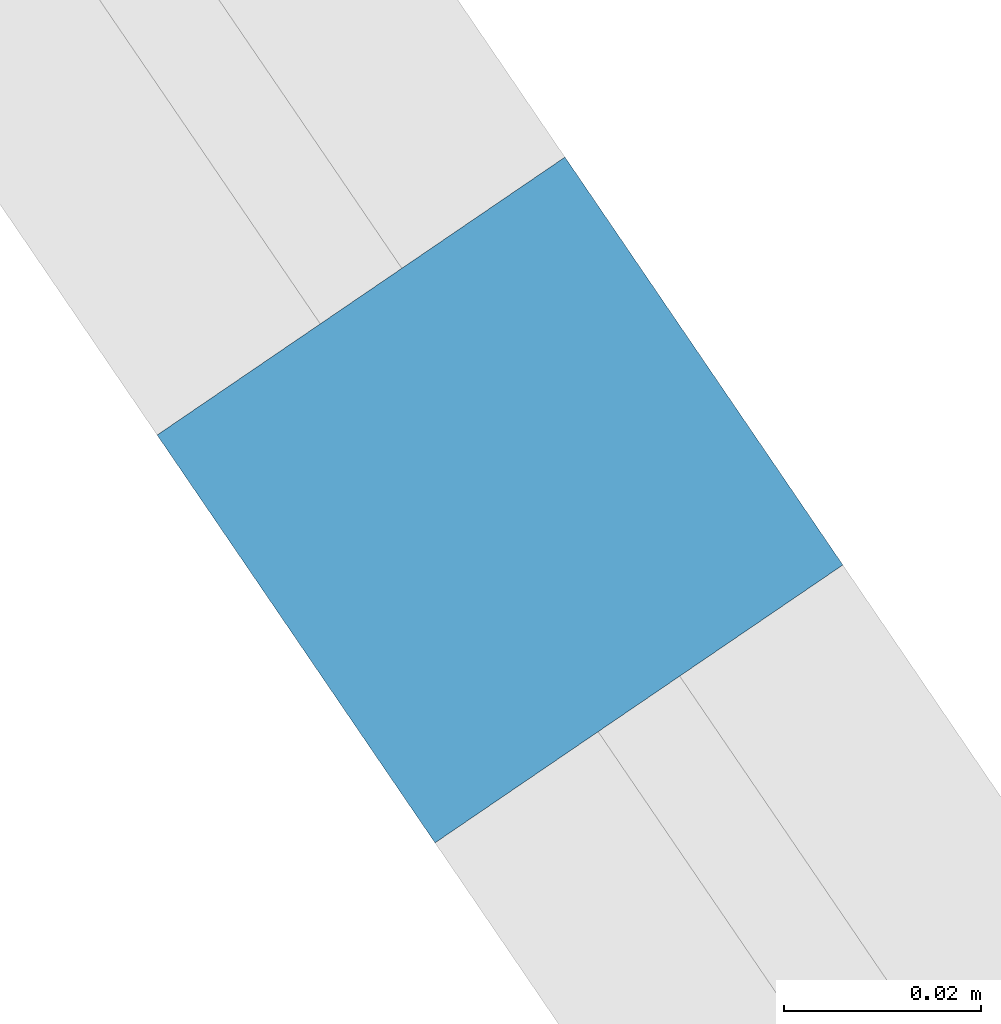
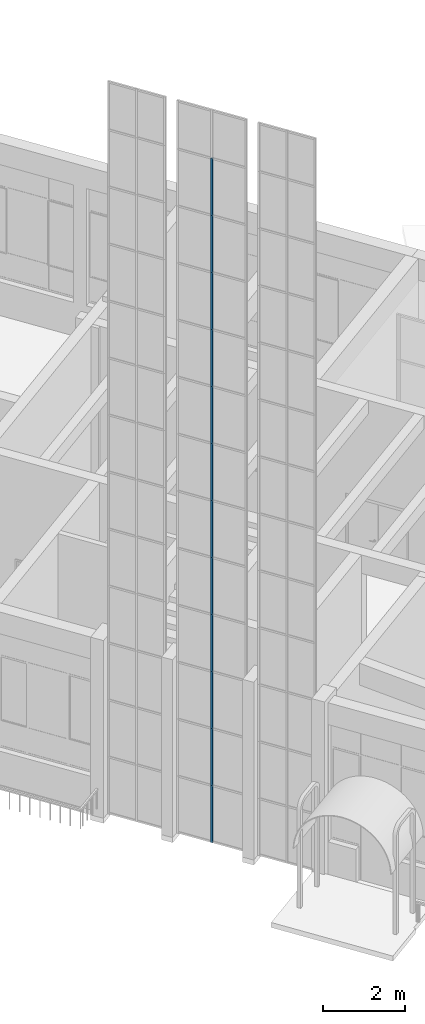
# One storey, part 9 of 157: 12 members, 1 element without a shape of its own.
"""IFC2X3 building model written with IfcOpenShell, lengths in millimetres."""

import ifcopenshell
import ifcopenshell.guid

model = None  # the IFC model being written
_history = None  # IfcOwnerHistory: only IFC2X3 demands one
_inside = {}  # id of a spatial element -> (the spatial element, [elements in it])
_under = {}  # id of a project, library or spatial element -> (it, [spatial elements below it])
_declared = {}  # id of a project -> (the project, [libraries it declares])
_typed = {}  # id of a type object -> (the type object, [elements of that type])
_made_of = {}  # id of a material, layer set ... -> (it, [elements and type objects made of it])


def new_model(schema):
    """Start an empty IFC model of exactly this schema.

    Asked for "IFC4X3", IfcOpenShell would pick the latest addendum, in which some entities
    have other attributes; the version numbers below select the first issue.
    IFC2X3 requires an IfcOwnerHistory on every rooted entity: one is made here for all.
    """
    global model, _history
    if schema == "IFC4X3":
        model = ifcopenshell.file(schema_version=(4, 3, 0, 0))
    else:
        model = ifcopenshell.file(schema=schema)
    _inside.clear()
    _under.clear()
    _declared.clear()
    _typed.clear()
    _made_of.clear()
    _history = None
    if model.schema == "IFC2X3":
        org = make("IfcOrganization", Name="unknown")
        user = make(
            "IfcPersonAndOrganization",
            ThePerson=make("IfcPerson", FamilyName="unknown"),
            TheOrganization=org,
        )
        app = make(
            "IfcApplication",
            ApplicationDeveloper=org,
            Version="unknown",
            ApplicationFullName="unknown",
            ApplicationIdentifier="unknown",
        )
        _history = make(
            "IfcOwnerHistory",
            OwningUser=user,
            OwningApplication=app,
            ChangeAction="ADDED",
            CreationDate=0,
        )
    return model


def make(cls, **values):
    """One entity of the class cls with the attributes given. An attribute that is None is left unset."""
    return model.create_entity(
        cls, **{name: value for name, value in values.items() if value is not None}
    )


def entity(cls, *values):
    """Any entity or typed value of the class cls, its attributes in the order of the schema. None: left unset."""
    e = model.create_entity(cls)
    for i, value in enumerate(values):
        if value is not None:
            e[i] = value
    return e


def rooted(cls, **values):
    """An entity with a GlobalId (a new one), such as an element, a storey or a relation."""
    return make(cls, GlobalId=ifcopenshell.guid.new(), OwnerHistory=_history, **values)


def si_unit(unit_type, name, prefix=None):
    """IfcSIUnit, for example si_unit("LENGTHUNIT", "METRE", prefix="MILLI")."""
    return make("IfcSIUnit", UnitType=unit_type, Prefix=prefix, Name=name)


def converted_unit(unit_type, name, factor, base, dimensions=None, offset=None):
    """IfcConversionBasedUnit, such as the inch: factor (a typed value) times the base unit."""
    return make(
        "IfcConversionBasedUnit"
        if offset is None
        else "IfcConversionBasedUnitWithOffset",
        ConversionOffset=offset,
        Dimensions=None
        if dimensions is None
        else entity("IfcDimensionalExponents", *dimensions),
        UnitType=unit_type,
        Name=name,
        ConversionFactor=make(
            "IfcMeasureWithUnit", ValueComponent=factor, UnitComponent=base
        ),
    )


def derived_unit(unit_type, elements):
    """IfcDerivedUnit: a product of units, each with its exponent."""
    return make(
        "IfcDerivedUnit",
        Elements=[
            make("IfcDerivedUnitElement", Unit=unit, Exponent=power)
            for unit, power in elements
        ],
        UnitType=unit_type,
    )


def assignment(units):
    """IfcUnitAssignment: the units of a project."""
    return None if units is None else make("IfcUnitAssignment", Units=units)


def point(xyz):
    """IfcCartesianPoint."""
    return None if xyz is None else make("IfcCartesianPoint", Coordinates=xyz)


def direction(xyz):
    """IfcDirection."""
    return None if xyz is None else make("IfcDirection", DirectionRatios=xyz)


def frame(location, z_axis=None, x_axis=None):
    """IfcAxis2Placement3D, a coordinate frame: its origin and axes. An axis left out is left unset."""
    return make(
        "IfcAxis2Placement3D",
        Location=point(location),
        Axis=direction(z_axis),
        RefDirection=direction(x_axis),
    )


def frame_2d(location, x_axis=None):
    """IfcAxis2Placement2D, a coordinate frame in the plane: its origin and x axis."""
    return make(
        "IfcAxis2Placement2D", Location=point(location), RefDirection=direction(x_axis)
    )


def origin():
    """The frame at (0, 0, 0) with its axes left unset."""
    return frame((0.0, 0.0, 0.0))


def origin_2d_with_axis():
    """The frame at (0, 0) in the plane with the x axis (1, 0) written out."""
    return frame_2d((0.0, 0.0), x_axis=(1.0, 0.0))


def place(relative_to, where):
    """IfcLocalPlacement: puts the frame where relative to a parent placement (None: the world)."""
    return make(
        "IfcLocalPlacement", PlacementRelTo=relative_to, RelativePlacement=where
    )


def context(
    kind, dimensions, precision=None, world=None, true_north=None, identifier=None
):
    """IfcGeometricRepresentationContext, for example the 3D "Model" context."""
    return make(
        "IfcGeometricRepresentationContext",
        ContextIdentifier=identifier,
        ContextType=kind,
        CoordinateSpaceDimension=dimensions,
        Precision=precision,
        WorldCoordinateSystem=world,
        TrueNorth=true_north,
    )


def subcontext(parent, identifier, kind, view, scale=None):
    """IfcGeometricRepresentationSubContext, for example "Body" below "Model"."""
    return make(
        "IfcGeometricRepresentationSubContext",
        ContextIdentifier=identifier,
        ContextType=kind,
        ParentContext=parent,
        TargetScale=scale,
        TargetView=view,
    )


def project(units=None, contexts=None):
    """IfcProject with its units and contexts."""
    return rooted(
        "IfcProject",
        Name="project",
        RepresentationContexts=contexts,
        UnitsInContext=assignment(units),
    )


def spatial(cls, under=None, at=None, **own):
    """A site, building, storey or space (cls), placed at a placement, below another one or the project."""
    s = rooted(cls, ObjectPlacement=at, **own)
    if under is not None:
        _under.setdefault(under.id(), (under, []))[1].append(s)
    return s


def profile(cls, at=None, kind="AREA", **sizes):
    """A parametric profile (cls). Its sizes go by their IFC names, for example OverallWidth=200.0."""
    return make(cls, ProfileType=kind, Position=at, **sizes)


def rectangle(**sizes):
    """IfcRectangleProfileDef."""
    return profile("IfcRectangleProfileDef", **sizes)


def extrude(swept, where, along, depth):
    """IfcExtrudedAreaSolid: the profile swept, set in the frame where, extruded along a direction by depth."""
    return make(
        "IfcExtrudedAreaSolid",
        SweptArea=swept,
        Position=where,
        ExtrudedDirection=direction(along),
        Depth=depth,
    )


def shape(context_of_items, identifier, shape_type, items):
    """IfcShapeRepresentation: the items that make up one representation, for example the "Body"."""
    return make(
        "IfcShapeRepresentation",
        ContextOfItems=context_of_items,
        RepresentationIdentifier=identifier,
        RepresentationType=shape_type,
        Items=items,
    )


def source(mapping_origin, context_of_items, identifier, shape_type, items):
    """IfcRepresentationMap: a shape defined once, which mapped items show again and again."""
    return make(
        "IfcRepresentationMap",
        MappingOrigin=mapping_origin,
        MappedRepresentation=shape(context_of_items, identifier, shape_type, items),
    )


def transform(
    local_origin,
    x_axis=None,
    y_axis=None,
    z_axis=None,
    scale=None,
    scale2=None,
    scale3=None,
    uniform=True,
):
    """IfcCartesianTransformationOperator3D, or its non-uniform kind. x_axis, y_axis, z_axis: its Axis1, 2, 3."""
    if uniform:
        return make(
            "IfcCartesianTransformationOperator3D",
            Axis1=direction(x_axis),
            Axis2=direction(y_axis),
            LocalOrigin=point(local_origin),
            Scale=scale,
            Axis3=direction(z_axis),
        )
    return make(
        "IfcCartesianTransformationOperator3DnonUniform",
        Axis1=direction(x_axis),
        Axis2=direction(y_axis),
        LocalOrigin=point(local_origin),
        Scale=scale,
        Axis3=direction(z_axis),
        Scale2=scale2,
        Scale3=scale3,
    )


def mapped(mapping_source, mapping_target):
    """IfcMappedItem: shows the shape of a source again, moved by a transform."""
    return make(
        "IfcMappedItem", MappingSource=mapping_source, MappingTarget=mapping_target
    )


def material(Name=None, Category=None):
    """IfcMaterial."""
    return make("IfcMaterial", Name=Name, Category=Category)


def made_of(thing, what):
    """Note that an element or type object is made of a material, layer set ...; save() writes the relation."""
    if what is not None:
        _made_of.setdefault(what.id(), (what, []))[1].append(thing)
    return thing


def type_object(cls, material=None, **own):
    """A type object (cls), such as IfcWallType, which elements share."""
    return made_of(rooted(cls, **own), material)


def type_shapes(of_type, sources):
    """Give a type object the sources (RepresentationMaps) that its elements show as mapped items."""
    of_type.RepresentationMaps = sources


def element(
    cls,
    number,
    at=None,
    inside=None,
    cuts=None,
    type_object=None,
    material=None,
    context=None,
    identifier="Body",
    shape_type=None,
    held_by="IfcProductDefinitionShape",
    body=None,
    shapes=None,
    **own,
):
    """One element of the class cls, such as IfcWall. Its Tag is "e" and its number.

    at: its placement. inside: the storey or other place that contains it. cuts: it is an
    opening in that element (IfcRelVoidsElement). A single representation is given by context,
    identifier, shape_type and body (its items); several are given by shapes. held_by: the class
    of the entity that holds the representations. save() writes the other relations.
    """
    e = rooted(cls, Tag="e%d" % number, ObjectPlacement=at, **own)
    if body is not None:
        shapes = [shape(context, identifier, shape_type, body)]
    if shapes is not None:
        e.Representation = make(held_by, Representations=shapes)
    if inside is not None:
        _inside.setdefault(inside.id(), (inside, []))[1].append(e)
    if cuts is not None:
        rooted(
            "IfcRelVoidsElement", RelatingBuildingElement=cuts, RelatedOpeningElement=e
        )
    if type_object is not None:
        _typed.setdefault(type_object.id(), (type_object, []))[1].append(e)
    return made_of(e, material)


def aggregate(whole, parts):
    """IfcRelAggregates: a whole, such as a stair, and the parts it consists of."""
    return rooted("IfcRelAggregates", RelatingObject=whole, RelatedObjects=parts)


def save(model, path):
    """Write the relations noted so far, then the file.

    IfcRelAggregates (storeys below a building ...), IfcRelContainedInSpatialStructure (elements
    in a storey), IfcRelDefinesByType, IfcRelAssociatesMaterial and IfcRelDeclares: one each for
    every whole, place, type object, material and project.
    """
    for whole, parts in _under.values():
        aggregate(whole, parts)
    for where, things in _inside.values():
        rooted(
            "IfcRelContainedInSpatialStructure",
            RelatedElements=things,
            RelatingStructure=where,
        )
    for kind, things in _typed.values():
        rooted("IfcRelDefinesByType", RelatedObjects=things, RelatingType=kind)
    for what, things in _made_of.values():
        rooted("IfcRelAssociatesMaterial", RelatedObjects=things, RelatingMaterial=what)
    for by, libraries in _declared.values():
        rooted("IfcRelDeclares", RelatingContext=by, RelatedDefinitions=libraries)
    model.write(path)


model = new_model("IFC2X3")

# Units and contexts
model_context = context("Model", 3, precision=0.01, world=origin(), true_north=direction((6.123031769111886e-17, 1.0)))
body_context = subcontext(model_context, "Body", "Model", "MODEL_VIEW")
ifc_project = project(units=[si_unit("LENGTHUNIT", "METRE", prefix="MILLI"), si_unit("AREAUNIT", "SQUARE_METRE"), si_unit("VOLUMEUNIT", "CUBIC_METRE"), converted_unit("PLANEANGLEUNIT", "DEGREE", entity("IfcRatioMeasure", 0.017453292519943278), si_unit("PLANEANGLEUNIT", "RADIAN"), dimensions=[0, 0, 0, 0, 0, 0, 0]), si_unit("MASSUNIT", "GRAM", prefix="KILO"), derived_unit("MASSDENSITYUNIT", [(si_unit("MASSUNIT", "GRAM", prefix="KILO"), 1), (si_unit("LENGTHUNIT", "METRE"), -3)]), derived_unit("MOMENTOFINERTIAUNIT", [(si_unit("LENGTHUNIT", "METRE"), 4)]), si_unit("TIMEUNIT", "SECOND"), si_unit("FREQUENCYUNIT", "HERTZ"), si_unit("THERMODYNAMICTEMPERATUREUNIT", "DEGREE_CELSIUS"), derived_unit("THERMALTRANSMITTANCEUNIT", [(si_unit("MASSUNIT", "GRAM", prefix="KILO"), 1), (si_unit("THERMODYNAMICTEMPERATUREUNIT", "KELVIN"), -1), (si_unit("TIMEUNIT", "SECOND"), -3)]), derived_unit("THERMALCONDUCTANCEUNIT", [(si_unit("MASSUNIT", "GRAM", prefix="KILO"), 1), (si_unit("LENGTHUNIT", "METRE"), 1), (si_unit("THERMODYNAMICTEMPERATUREUNIT", "KELVIN"), -1), (si_unit("TIMEUNIT", "SECOND"), -3)]), derived_unit("VOLUMETRICFLOWRATEUNIT", [(si_unit("LENGTHUNIT", "METRE"), 3), (si_unit("TIMEUNIT", "SECOND"), -1)]), derived_unit("MASSFLOWRATEUNIT", [(si_unit("MASSUNIT", "GRAM", prefix="KILO"), 1), (si_unit("TIMEUNIT", "SECOND"), -1)]), derived_unit("ROTATIONALFREQUENCYUNIT", [(si_unit("TIMEUNIT", "SECOND"), -1)]), si_unit("ELECTRICCURRENTUNIT", "AMPERE"), si_unit("ELECTRICVOLTAGEUNIT", "VOLT"), si_unit("POWERUNIT", "WATT"), converted_unit("FORCEUNIT", "KIP", entity("IfcRatioMeasure", 2.088543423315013e-05), si_unit("FORCEUNIT", "NEWTON"), dimensions=[1, 1, -2, 0, 0, 0, 0]), si_unit("ILLUMINANCEUNIT", "LUX"), si_unit("LUMINOUSFLUXUNIT", "LUMEN"), si_unit("LUMINOUSINTENSITYUNIT", "CANDELA"), derived_unit("USERDEFINED", [(si_unit("MASSUNIT", "GRAM", prefix="KILO"), -1), (si_unit("LENGTHUNIT", "METRE"), -2), (si_unit("TIMEUNIT", "SECOND"), 3), (si_unit("LUMINOUSFLUXUNIT", "LUMEN"), 1)]), derived_unit("USERDEFINED", [(si_unit("MASSUNIT", "GRAM", prefix="KILO"), 1), (si_unit("LENGTHUNIT", "METRE"), 3), (si_unit("TIMEUNIT", "SECOND"), -3), (si_unit("ELECTRICCURRENTUNIT", "AMPERE"), -2)]), derived_unit("USERDEFINED", [(si_unit("LENGTHUNIT", "METRE"), 2), (si_unit("TIMEUNIT", "SECOND"), -2)]), derived_unit("SOUNDPOWERUNIT", [(si_unit("MASSUNIT", "GRAM", prefix="KILO"), 1), (si_unit("LENGTHUNIT", "METRE"), 2), (si_unit("TIMEUNIT", "SECOND"), -3)]), derived_unit("SOUNDPRESSUREUNIT", [(si_unit("MASSUNIT", "GRAM", prefix="KILO"), 1), (si_unit("LENGTHUNIT", "METRE"), -1), (si_unit("TIMEUNIT", "SECOND"), -2)]), derived_unit("LINEARVELOCITYUNIT", [(si_unit("LENGTHUNIT", "METRE"), 1), (si_unit("TIMEUNIT", "SECOND"), -1)]), si_unit("PRESSUREUNIT", "PASCAL"), derived_unit("USERDEFINED", [(si_unit("LENGTHUNIT", "METRE"), -2), (si_unit("MASSUNIT", "GRAM", prefix="KILO"), 1), (si_unit("TIMEUNIT", "SECOND"), -2)]), derived_unit("LINEARFORCEUNIT", [(si_unit("MASSUNIT", "GRAM", prefix="KILO"), 1), (si_unit("LENGTHUNIT", "METRE"), 1), (si_unit("TIMEUNIT", "SECOND"), -2), (si_unit("LENGTHUNIT", "METRE"), -1)]), derived_unit("PLANARFORCEUNIT", [(si_unit("MASSUNIT", "GRAM", prefix="KILO"), 1), (si_unit("LENGTHUNIT", "METRE"), 1), (si_unit("TIMEUNIT", "SECOND"), -2), (si_unit("LENGTHUNIT", "METRE"), -2)]), derived_unit("SPECIFICHEATCAPACITYUNIT", [(si_unit("LENGTHUNIT", "METRE"), 2), (si_unit("TIMEUNIT", "SECOND"), -2), (si_unit("THERMODYNAMICTEMPERATUREUNIT", "KELVIN"), -1)]), derived_unit("VAPORPERMEABILITYUNIT", [(si_unit("TIMEUNIT", "SECOND"), 1), (si_unit("LENGTHUNIT", "METRE"), -1)]), derived_unit("DYNAMICVISCOSITYUNIT", [(si_unit("MASSUNIT", "GRAM", prefix="KILO"), 1), (si_unit("LENGTHUNIT", "METRE"), -1), (si_unit("TIMEUNIT", "SECOND"), -1)]), derived_unit("THERMALEXPANSIONCOEFFICIENTUNIT", [(si_unit("THERMODYNAMICTEMPERATUREUNIT", "KELVIN"), -1)])], contexts=[model_context])

# Site, building, storey
site_placement = place(None, frame((0.0, 0.0, 0.0), z_axis=(0.0, 0.0, 1.0), x_axis=(0.8191520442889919, 0.5735764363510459, 0.0)))
site = spatial("IfcSite", under=ifc_project, at=site_placement, Name="Default", CompositionType="ELEMENT")
building_placement = place(site_placement, origin())
building = spatial("IfcBuilding", under=site, at=building_placement, CompositionType="ELEMENT")
storey_placement = place(building_placement, origin())
storey = spatial("IfcBuildingStorey", under=building, at=storey_placement, Name="1.EG +0.00", CompositionType="ELEMENT", Elevation=-4.331468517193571e-12)

# Curtain wall, members
curtain_wall_type = type_object("IfcCurtainWallType", Name="Curtain Wall:Curtain_Wall_CJC 2", PredefinedType="NOTDEFINED")
curtain_wall_placement = place(storey_placement, origin())
curtain_wall = element("IfcCurtainWall", 1, at=curtain_wall_placement, inside=storey, type_object=curtain_wall_type, Name="Curtain Wall:Curtain_Wall_CJC 2", ObjectType="Curtain Wall:Curtain_Wall_CJC 2")
ifc_material = material(Name="Aluminium")
member_type_1 = type_object("IfcMemberType", Name="Rectangular Mullion:5x5", PredefinedType="MULLION", material=ifc_material)
shared_shape_1 = source(origin(), body_context, "Body", "SweptSolid", [
    extrude(rectangle(XDim=50.0, YDim=50.0, at=origin_2d_with_axis()), frame((0.0, 0.0, -1700.0), z_axis=(0.0, 0.0, 1.0), x_axis=(0.0, -1.0, 0.0)), (0.0, 0.0, 1.0), 1700.0),
])
type_shapes(member_type_1, [shared_shape_1])
member_1_placement = place(curtain_wall_placement, frame((-223086.49842833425, 112695.23194626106, 0.0), z_axis=(0.0, 0.0, -1.0), x_axis=(0.01272958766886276, 0.999918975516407, 0.0)))
member_1 = element("IfcMember", 2, at=member_1_placement, type_object=member_type_1, material=ifc_material, Name="Rectangular Mullion:5x5", ObjectType="Rectangular Mullion:5x5", context=body_context, shape_type="MappedRepresentation", body=[
    mapped(shared_shape_1, transform((0.0, 0.0, 0.0), scale=1.0)),
])
member_type_2 = type_object("IfcMemberType", Name="Rectangular Mullion:5x5", PredefinedType="MULLION", material=ifc_material)
shared_shape_2 = source(origin(), body_context, "Body", "SweptSolid", [
    extrude(rectangle(XDim=50.0, YDim=50.0, at=origin_2d_with_axis()), frame((0.0, 0.0, -1700.0), z_axis=(0.0, 0.0, 1.0), x_axis=(0.0, -1.0, 0.0)), (0.0, 0.0, 1.0), 1700.0),
])
type_shapes(member_type_2, [shared_shape_2])
member_2_placement = place(curtain_wall_placement, frame((-223086.49842833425, 112695.23194626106, 1700.0), z_axis=(0.0, 0.0, -1.0), x_axis=(0.01272958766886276, 0.999918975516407, 0.0)))
member_2 = element("IfcMember", 3, at=member_2_placement, type_object=member_type_2, material=ifc_material, Name="Rectangular Mullion:5x5", ObjectType="Rectangular Mullion:5x5", context=body_context, shape_type="MappedRepresentation", body=[
    mapped(shared_shape_2, transform((0.0, 0.0, 0.0), scale=1.0)),
])
member_3_placement = place(curtain_wall_placement, frame((-223086.49842833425, 112695.23194626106, 3400.0), z_axis=(0.0, 0.0, -1.0), x_axis=(0.01272958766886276, 0.999918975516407, 0.0)))
member_3 = element("IfcMember", 4, at=member_3_placement, type_object=member_type_2, material=ifc_material, Name="Rectangular Mullion:5x5", ObjectType="Rectangular Mullion:5x5", context=body_context, shape_type="MappedRepresentation", body=[
    mapped(shared_shape_2, transform((0.0, 0.0, 0.0), scale=1.0)),
])
member_4_placement = place(curtain_wall_placement, frame((-223086.49842833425, 112695.23194626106, 5100.0), z_axis=(0.0, 0.0, -1.0), x_axis=(0.01272958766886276, 0.999918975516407, 0.0)))
member_4 = element("IfcMember", 5, at=member_4_placement, type_object=member_type_2, material=ifc_material, Name="Rectangular Mullion:5x5", ObjectType="Rectangular Mullion:5x5", context=body_context, shape_type="MappedRepresentation", body=[
    mapped(shared_shape_2, transform((0.0, 0.0, 0.0), scale=1.0)),
])
member_5_placement = place(curtain_wall_placement, frame((-223086.49842833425, 112695.23194626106, 6800.0), z_axis=(0.0, 0.0, -1.0), x_axis=(0.01272958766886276, 0.999918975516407, 0.0)))
member_5 = element("IfcMember", 6, at=member_5_placement, type_object=member_type_2, material=ifc_material, Name="Rectangular Mullion:5x5", ObjectType="Rectangular Mullion:5x5", context=body_context, shape_type="MappedRepresentation", body=[
    mapped(shared_shape_2, transform((0.0, 0.0, 0.0), scale=1.0)),
])
member_6_placement = place(curtain_wall_placement, frame((-223086.49842833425, 112695.23194626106, 8500.0), z_axis=(0.0, 0.0, -1.0), x_axis=(0.01272958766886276, 0.999918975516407, 0.0)))
member_6 = element("IfcMember", 7, at=member_6_placement, type_object=member_type_2, material=ifc_material, Name="Rectangular Mullion:5x5", ObjectType="Rectangular Mullion:5x5", context=body_context, shape_type="MappedRepresentation", body=[
    mapped(shared_shape_2, transform((0.0, 0.0, 0.0), scale=1.0)),
])
member_7_placement = place(curtain_wall_placement, frame((-223086.49842833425, 112695.23194626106, 10200.0), z_axis=(0.0, 0.0, -1.0), x_axis=(0.01272958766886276, 0.999918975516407, 0.0)))
member_7 = element("IfcMember", 8, at=member_7_placement, type_object=member_type_2, material=ifc_material, Name="Rectangular Mullion:5x5", ObjectType="Rectangular Mullion:5x5", context=body_context, shape_type="MappedRepresentation", body=[
    mapped(shared_shape_2, transform((0.0, 0.0, 0.0), scale=1.0)),
])
member_8_placement = place(curtain_wall_placement, frame((-223086.49842833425, 112695.23194626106, 11900.0), z_axis=(0.0, 0.0, -1.0), x_axis=(0.01272958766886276, 0.999918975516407, 0.0)))
member_8 = element("IfcMember", 9, at=member_8_placement, type_object=member_type_2, material=ifc_material, Name="Rectangular Mullion:5x5", ObjectType="Rectangular Mullion:5x5", context=body_context, shape_type="MappedRepresentation", body=[
    mapped(shared_shape_2, transform((0.0, 0.0, 0.0), scale=1.0)),
])
member_9_placement = place(curtain_wall_placement, frame((-223086.49842833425, 112695.23194626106, 13600.0), z_axis=(0.0, 0.0, -1.0), x_axis=(0.01272958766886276, 0.999918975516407, 0.0)))
member_9 = element("IfcMember", 10, at=member_9_placement, type_object=member_type_2, material=ifc_material, Name="Rectangular Mullion:5x5", ObjectType="Rectangular Mullion:5x5", context=body_context, shape_type="MappedRepresentation", body=[
    mapped(shared_shape_2, transform((0.0, 0.0, 0.0), scale=1.0)),
])
member_10_placement = place(curtain_wall_placement, frame((-223086.49842833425, 112695.23194626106, 15300.0), z_axis=(0.0, 0.0, -1.0), x_axis=(0.01272958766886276, 0.999918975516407, 0.0)))
member_10 = element("IfcMember", 11, at=member_10_placement, type_object=member_type_2, material=ifc_material, Name="Rectangular Mullion:5x5", ObjectType="Rectangular Mullion:5x5", context=body_context, shape_type="MappedRepresentation", body=[
    mapped(shared_shape_2, transform((0.0, 0.0, 0.0), scale=1.0)),
])
member_11_placement = place(curtain_wall_placement, frame((-223086.49842833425, 112695.23194626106, 17000.0), z_axis=(0.0, 0.0, -1.0), x_axis=(0.01272958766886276, 0.999918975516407, 0.0)))
member_11 = element("IfcMember", 12, at=member_11_placement, type_object=member_type_2, material=ifc_material, Name="Rectangular Mullion:5x5", ObjectType="Rectangular Mullion:5x5", context=body_context, shape_type="MappedRepresentation", body=[
    mapped(shared_shape_2, transform((0.0, 0.0, 0.0), scale=1.0)),
])
member_12_placement = place(curtain_wall_placement, frame((-223086.49842833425, 112695.23194626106, 18700.0), z_axis=(0.0, 0.0, -1.0), x_axis=(0.01272958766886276, 0.999918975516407, 0.0)))
member_12 = element("IfcMember", 13, at=member_12_placement, type_object=member_type_2, material=ifc_material, Name="Rectangular Mullion:5x5", ObjectType="Rectangular Mullion:5x5", context=body_context, shape_type="MappedRepresentation", body=[
    mapped(shared_shape_2, transform((0.0, 0.0, 0.0), scale=1.0)),
])
aggregate(curtain_wall, [member_1, member_2, member_3, member_4, member_5, member_6, member_7, member_8, member_9, member_10, member_11, member_12])

save(model, "model.ifc")
